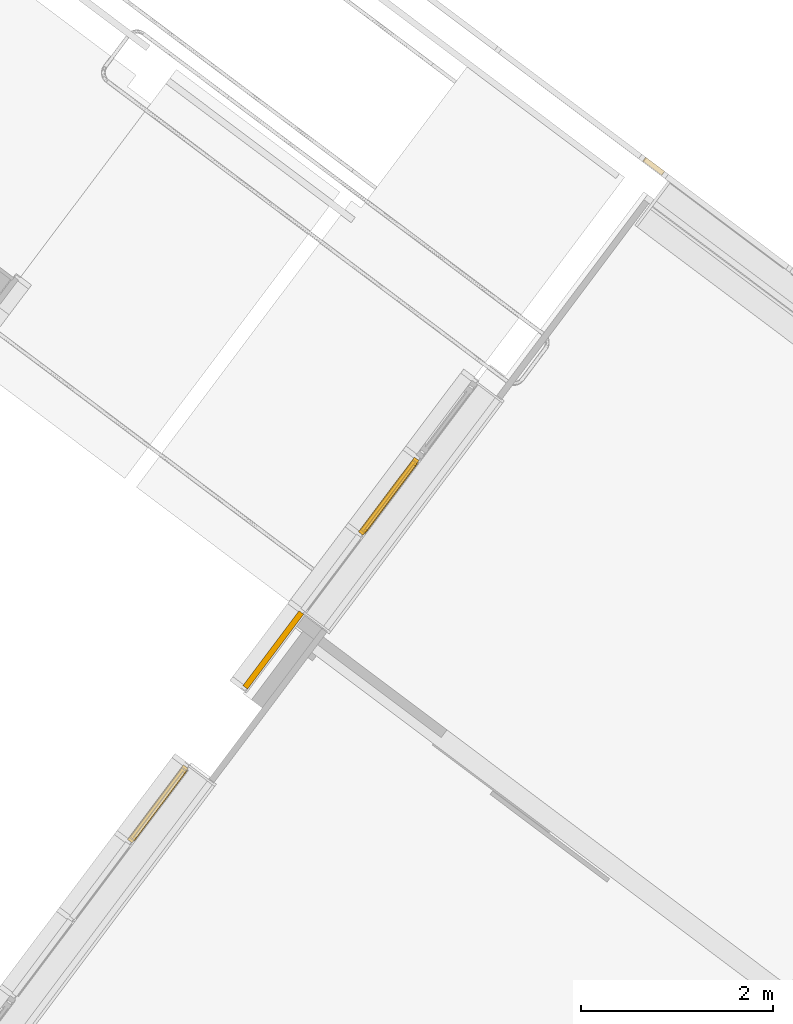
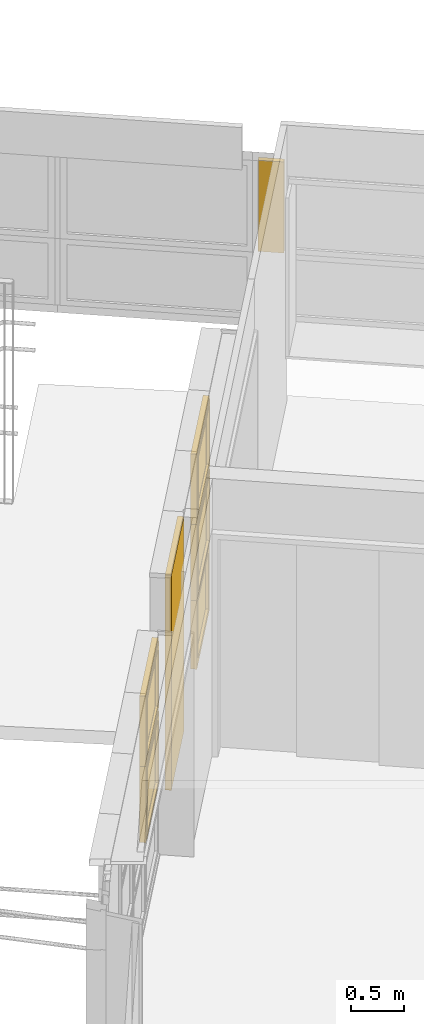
# One storey, part 171 of 243: 6 windows, 1 door, 2 elements without a shape of their own.
"""IFC2X3 building model written with IfcOpenShell, lengths in metres."""

from ifc_helpers import new_model, entity, si_unit, converted_unit, derived_unit, direction, frame, frame_2d, origin, origin_2d_with_axis, place, context, subcontext, project, spatial, polyline, rectangle, outline, extrude, faceted_brep, source, transform, mapped, material, material_list, type_object, type_shapes, element, aggregate, save


model = new_model("IFC2X3")

# Units and contexts
model_context = context("Model", 3, precision=1e-05, world=origin(), true_north=direction((6.123031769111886e-17, 1.0)))
body_context = subcontext(model_context, "Body", "Model", "MODEL_VIEW")
ifc_project = project(units=[si_unit("LENGTHUNIT", "METRE"), si_unit("AREAUNIT", "SQUARE_METRE"), si_unit("VOLUMEUNIT", "CUBIC_METRE"), converted_unit("PLANEANGLEUNIT", "DEGREE", entity("IfcRatioMeasure", 0.017453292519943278), si_unit("PLANEANGLEUNIT", "RADIAN"), dimensions=[0, 0, 0, 0, 0, 0, 0]), si_unit("MASSUNIT", "GRAM", prefix="KILO"), derived_unit("MASSDENSITYUNIT", [(si_unit("MASSUNIT", "GRAM", prefix="KILO"), 1), (si_unit("LENGTHUNIT", "METRE"), -3)]), derived_unit("IONCONCENTRATIONUNIT", [(si_unit("MASSUNIT", "GRAM", prefix="KILO"), 1), (si_unit("LENGTHUNIT", "METRE"), -3)]), derived_unit("MOMENTOFINERTIAUNIT", [(si_unit("LENGTHUNIT", "METRE"), 4)]), si_unit("TIMEUNIT", "SECOND"), si_unit("FREQUENCYUNIT", "HERTZ"), si_unit("THERMODYNAMICTEMPERATUREUNIT", "DEGREE_CELSIUS"), derived_unit("THERMALTRANSMITTANCEUNIT", [(si_unit("MASSUNIT", "GRAM", prefix="KILO"), 1), (si_unit("THERMODYNAMICTEMPERATUREUNIT", "KELVIN"), -1), (si_unit("TIMEUNIT", "SECOND"), -3)]), derived_unit("THERMALCONDUCTANCEUNIT", [(si_unit("MASSUNIT", "GRAM", prefix="KILO"), 1), (si_unit("THERMODYNAMICTEMPERATUREUNIT", "KELVIN"), -1), (si_unit("TIMEUNIT", "SECOND"), -3), (si_unit("LENGTHUNIT", "METRE"), 1)]), derived_unit("VOLUMETRICFLOWRATEUNIT", [(si_unit("LENGTHUNIT", "METRE"), 3), (si_unit("TIMEUNIT", "SECOND"), -1)]), derived_unit("MASSFLOWRATEUNIT", [(si_unit("MASSUNIT", "GRAM", prefix="KILO"), 1), (si_unit("TIMEUNIT", "SECOND"), -1)]), derived_unit("ROTATIONALFREQUENCYUNIT", [(si_unit("TIMEUNIT", "SECOND"), -1)]), si_unit("ELECTRICCURRENTUNIT", "AMPERE"), si_unit("ELECTRICVOLTAGEUNIT", "VOLT"), si_unit("POWERUNIT", "WATT"), si_unit("FORCEUNIT", "NEWTON", prefix="KILO"), si_unit("ILLUMINANCEUNIT", "LUX"), si_unit("LUMINOUSFLUXUNIT", "LUMEN"), si_unit("LUMINOUSINTENSITYUNIT", "CANDELA"), derived_unit("USERDEFINED", [(si_unit("MASSUNIT", "GRAM", prefix="KILO"), -1), (si_unit("LENGTHUNIT", "METRE"), -2), (si_unit("TIMEUNIT", "SECOND"), 3), (si_unit("LUMINOUSFLUXUNIT", "LUMEN"), 1)]), derived_unit("USERDEFINED", [(si_unit("MASSUNIT", "GRAM", prefix="KILO"), 1), (si_unit("TIMEUNIT", "SECOND"), -3), (si_unit("LENGTHUNIT", "METRE"), 3), (si_unit("ELECTRICCURRENTUNIT", "AMPERE"), -2)]), derived_unit("SOUNDPOWERUNIT", [(si_unit("MASSUNIT", "GRAM", prefix="KILO"), 1), (si_unit("TIMEUNIT", "SECOND"), -3), (si_unit("LENGTHUNIT", "METRE"), 2)]), derived_unit("SOUNDPRESSUREUNIT", [(si_unit("MASSUNIT", "GRAM", prefix="KILO"), 1), (si_unit("LENGTHUNIT", "METRE"), -1), (si_unit("TIMEUNIT", "SECOND"), -2)]), derived_unit("LINEARVELOCITYUNIT", [(si_unit("LENGTHUNIT", "METRE"), 1), (si_unit("TIMEUNIT", "SECOND"), -1)]), si_unit("PRESSUREUNIT", "PASCAL"), derived_unit("USERDEFINED", [(si_unit("MASSUNIT", "GRAM", prefix="KILO"), 1), (si_unit("LENGTHUNIT", "METRE"), -2), (si_unit("TIMEUNIT", "SECOND"), -2)]), derived_unit("LINEARFORCEUNIT", [(si_unit("MASSUNIT", "GRAM", prefix="KILO"), 1), (si_unit("TIMEUNIT", "SECOND"), -2)]), derived_unit("PLANARFORCEUNIT", [(si_unit("MASSUNIT", "GRAM", prefix="KILO"), 1), (si_unit("LENGTHUNIT", "METRE"), -1), (si_unit("TIMEUNIT", "SECOND"), -2)]), derived_unit("SPECIFICHEATCAPACITYUNIT", [(si_unit("THERMODYNAMICTEMPERATUREUNIT", "KELVIN"), -1), (si_unit("LENGTHUNIT", "METRE"), 2), (si_unit("TIMEUNIT", "SECOND"), -2)]), derived_unit("HEATINGVALUEUNIT", [(si_unit("LENGTHUNIT", "METRE"), 2), (si_unit("TIMEUNIT", "SECOND"), -2)]), derived_unit("VAPORPERMEABILITYUNIT", [(si_unit("LENGTHUNIT", "METRE"), -1), (si_unit("TIMEUNIT", "SECOND"), 1)]), derived_unit("DYNAMICVISCOSITYUNIT", [(si_unit("MASSUNIT", "GRAM", prefix="KILO"), 1), (si_unit("TIMEUNIT", "SECOND"), -1), (si_unit("LENGTHUNIT", "METRE"), -1)]), derived_unit("THERMALEXPANSIONCOEFFICIENTUNIT", [(si_unit("THERMODYNAMICTEMPERATUREUNIT", "KELVIN"), -1)]), derived_unit("MODULUSOFELASTICITYUNIT", [(si_unit("MASSUNIT", "GRAM", prefix="KILO"), 1), (si_unit("LENGTHUNIT", "METRE"), -1), (si_unit("TIMEUNIT", "SECOND"), -2)]), derived_unit("ISOTHERMALMOISTURECAPACITYUNIT", [(si_unit("LENGTHUNIT", "METRE"), 3), (si_unit("MASSUNIT", "GRAM", prefix="KILO"), -1)]), derived_unit("MOISTUREDIFFUSIVITYUNIT", [(si_unit("TIMEUNIT", "SECOND"), -1), (si_unit("LENGTHUNIT", "METRE"), 2)])], contexts=[model_context])

# Site, building, storey
site_placement = place(None, frame((0.0, 0.0, 235.0), z_axis=(0.0, 0.0, 1.0), x_axis=(-0.7996477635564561, 0.6004693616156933, 0.0)))
site = spatial("IfcSite", under=ifc_project, at=site_placement, Name="Default", CompositionType="ELEMENT")
building_placement = place(site_placement, origin())
building = spatial("IfcBuilding", under=site, at=building_placement, CompositionType="ELEMENT")
storey_placement = place(building_placement, origin())
storey = spatial("IfcBuildingStorey", under=building, at=storey_placement, Name="P0- Escola", CompositionType="ELEMENT", Elevation=0.0)

# Curtain wall, windows, door
curtain_wall_type_1 = type_object("IfcCurtainWallType", Name="Muro cortina:MC- EXT- MC2", PredefinedType="NOTDEFINED")
curtain_wall_1_placement = place(storey_placement, origin())
curtain_wall_1 = element("IfcCurtainWall", 1, at=curtain_wall_1_placement, inside=storey, type_object=curtain_wall_type_1, Name="Muro cortina:MC- EXT- MC2", ObjectType="Muro cortina:MC- EXT- MC2")
ifc_material_1 = material(Name="_Vidre")
ifc_material_2 = material(Name="_Alumini- T1- Perfil")
ifc_material_list_1 = material_list([ifc_material_1, ifc_material_2])
window_style_1 = type_object("IfcWindowStyle", Name="MC- Alu- Conjunt vidre fix- 62x60 cm:MC- Alu- Conjunt vidre fix- 62x60 cm", ConstructionType="NOTDEFINED", OperationType="NOTDEFINED", ParameterTakesPrecedence=False, Sizeable=False, material=ifc_material_list_1)
shared_shape_1 = source(origin(), body_context, "Body", "Brep", [
    faceted_brep([(-0.43619328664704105, -0.007600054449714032, 0.048806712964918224), (0.43619328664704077, -0.007600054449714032, 0.048806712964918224), (0.43619328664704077, -0.03160022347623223, 0.048806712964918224), (-0.43619328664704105, -0.03160022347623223, 0.048806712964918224), (-0.43619328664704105, -0.007600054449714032, 0.7387000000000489), (0.43619328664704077, -0.007600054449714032, 0.7387000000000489), (0.43619328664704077, -0.03160022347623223, 0.7387000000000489), (-0.43619328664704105, -0.03160022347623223, 0.7387000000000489)], [[[0, 1, 2, 3]], [[4, 5, 1, 0]], [[5, 6, 2, 1]], [[6, 7, 3, 2]], [[7, 4, 0, 3]], [[4, 7, 6, 5]]]),
    faceted_brep([(-0.4849999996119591, -0.05999999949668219, 0.7877000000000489), (-0.4849999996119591, 0.0, 0.7877000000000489), (-0.4849999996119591, 0.0, 0.0), (-0.4849999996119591, -0.05999999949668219, 0.0), (-0.422193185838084, 0.0, 0.7248931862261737), (-0.4221931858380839, 0.0, 0.06280681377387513), (0.42219318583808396, 0.0, 0.06280681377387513), (0.42219318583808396, 0.0, 0.7248931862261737), (0.4849999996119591, 0.0, 0.7877000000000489), (0.4849999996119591, 0.0, 0.0), (0.4849999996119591, -0.05999999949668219, 0.0), (0.4849999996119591, -0.05999999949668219, 0.7877000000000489), (0.4221960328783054, -0.05999999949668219, 0.7248960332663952), (0.4221960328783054, -0.05999999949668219, 0.0628039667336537), (-0.4221960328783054, -0.05999999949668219, 0.0628039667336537), (-0.4221960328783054, -0.05999999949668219, 0.7248960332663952), (-0.4221960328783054, -0.03160022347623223, 0.7248960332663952), (-0.4221960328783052, -0.03160022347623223, 0.06280396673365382), (0.4221960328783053, -0.03160022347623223, 0.06280396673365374), (0.42219603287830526, -0.03160022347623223, 0.7248960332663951), (0.43619328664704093, -0.03160022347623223, 0.7388932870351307), (0.43619328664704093, -0.03160022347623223, 0.048806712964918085), (-0.43619328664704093, -0.03160022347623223, 0.04880671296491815), (-0.43619328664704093, -0.03160022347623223, 0.7388932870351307), (-0.43619328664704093, -0.007600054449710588, 0.7388932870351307), (-0.43619328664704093, -0.007600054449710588, 0.04880671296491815), (0.43619328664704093, -0.007600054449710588, 0.048806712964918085), (0.43619328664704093, -0.007600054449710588, 0.7388932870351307), (0.42219318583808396, -0.007600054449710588, 0.7248931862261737), (0.42219318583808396, -0.007600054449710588, 0.06280681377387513), (-0.42219318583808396, -0.007600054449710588, 0.06280681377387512), (-0.42219318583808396, -0.007600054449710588, 0.7248931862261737)], [[[0, 1, 2, 3]], [[4, 5, 6, 7], [8, 9, 2, 1]], [[3, 2, 9, 10]], [[0, 3, 10, 11], [12, 13, 14, 15]], [[16, 15, 14, 17]], [[17, 14, 13, 18]], [[16, 17, 18, 19], [20, 21, 22, 23]], [[24, 23, 22, 25]], [[25, 22, 21, 26]], [[24, 25, 26, 27], [28, 29, 30, 31]], [[4, 31, 30, 5]], [[5, 30, 29, 6]], [[10, 9, 8, 11]], [[18, 13, 12, 19]], [[26, 21, 20, 27]], [[6, 29, 28, 7]], [[11, 8, 1, 0]], [[19, 12, 15, 16]], [[27, 20, 23, 24]], [[7, 28, 31, 4]]], outer=[[True], [False, True], [True], [True, False], [True], [True], [False, True], [True], [True], [True, False], [True], [True], [True], [True], [True], [True], [True], [True], [True], [True]]),
])
type_shapes(window_style_1, [shared_shape_1])
window_1_placement = place(curtain_wall_1_placement, frame((23.945147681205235, -37.9151917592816, 0.03229999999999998), z_axis=(0.0, 0.0, 1.0), x_axis=(0.0, -1.0, 0.0)))
window_1 = element("IfcWindow", 2, at=window_1_placement, type_object=window_style_1, material=ifc_material_list_1, Name="MC- Alu- Conjunt vidre fix- 62x60 cm:MC- Alu- Conjunt vidre fix- 62x60 cm", ObjectType="MC- Alu- Conjunt vidre fix- 62x60 cm:MC- Alu- Conjunt vidre fix- 62x60 cm", OverallHeight=0.7877000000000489, OverallWidth=0.9699999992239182, context=body_context, shape_type="MappedRepresentation", body=[
    mapped(shared_shape_1, transform((0.0, 0.0, 0.0), scale=1.0)),
])
window_style_2 = type_object("IfcWindowStyle", Name="MC- Alu- Conjunt finestra basculant- 68x68 cm:MC- Alu- Conjunt finestra basculant- 68x68 cm", ConstructionType="NOTDEFINED", OperationType="NOTDEFINED", ParameterTakesPrecedence=False, Sizeable=False, material=ifc_material_list_1)
shared_shape_2 = source(origin(), body_context, "Body", "Brep", [
    faceted_brep([(-0.43291170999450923, -0.03559830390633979, 0.051999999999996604), (-0.43291170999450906, -0.011598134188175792, 0.051999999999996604), (0.43291170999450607, -0.011598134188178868, 0.051999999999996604), (0.43291170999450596, -0.03559830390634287, 0.051999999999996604), (-0.43291170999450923, -0.03559830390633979, 0.8228027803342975), (-0.4329117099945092, -0.011598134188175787, 0.8228027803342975), (0.43291170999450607, -0.011598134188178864, 0.8228027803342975), (0.43291170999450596, -0.03559830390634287, 0.8228027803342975)], [[[0, 1, 2, 3]], [[4, 5, 1, 0]], [[5, 6, 2, 1]], [[6, 7, 3, 2]], [[7, 4, 0, 3]], [[4, 7, 6, 5]]]),
    faceted_brep([(0.4172108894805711, -0.009998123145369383, 0.8071019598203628), (0.4172108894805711, -0.007998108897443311, 0.8071019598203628), (0.4172108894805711, -0.007998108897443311, 0.06789804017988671), (0.4172108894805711, -0.009998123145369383, 0.06789804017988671), (0.44610892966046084, -0.007998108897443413, 0.8360000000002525), (0.44610892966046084, -0.007998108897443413, 0.03899999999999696), (-0.44610892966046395, -0.007998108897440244, 0.03899999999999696), (-0.44610892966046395, -0.007998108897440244, 0.8360000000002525), (-0.4172108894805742, -0.007998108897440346, 0.8071019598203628), (-0.4172108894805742, -0.007998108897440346, 0.06789804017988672), (-0.4172108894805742, -0.009998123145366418, 0.06789804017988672), (-0.4172108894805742, -0.009998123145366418, 0.8071019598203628), (-0.4329117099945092, -0.00999812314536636, 0.8228027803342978), (-0.4329117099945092, -0.009998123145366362, 0.05219721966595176), (0.43291170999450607, -0.009998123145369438, 0.052197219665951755), (0.43291170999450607, -0.009998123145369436, 0.8228027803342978), (0.4329117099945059, -0.04079986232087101, 0.8228027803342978), (0.4329117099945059, -0.04079986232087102, 0.052197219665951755), (-0.4329117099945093, -0.04079986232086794, 0.05219721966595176), (-0.4329117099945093, -0.04079986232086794, 0.8228027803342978), (-0.41721088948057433, -0.040799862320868, 0.8071019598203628), (-0.41721088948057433, -0.040799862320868, 0.06789804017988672), (0.41721088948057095, -0.04079986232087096, 0.06789804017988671), (0.41721088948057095, -0.04079986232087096, 0.8071019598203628), (0.41721088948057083, -0.06800005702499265, 0.8071019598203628), (0.4172108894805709, -0.06800005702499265, 0.06789804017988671), (-0.4172108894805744, -0.0680000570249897, 0.06789804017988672), (-0.4172108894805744, -0.0680000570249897, 0.8071019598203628), (-0.4636128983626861, -0.06800005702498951, 0.8535039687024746), (-0.4636128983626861, -0.06800005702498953, 0.021496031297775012), (0.4636128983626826, -0.06800005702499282, 0.021496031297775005), (0.4636128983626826, -0.06800005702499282, 0.8535039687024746), (0.4636128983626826, -0.0645000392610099, 0.8535039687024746), (0.4636128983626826, -0.0645000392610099, 0.021496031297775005), (-0.4636128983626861, -0.06450003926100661, 0.021496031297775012), (-0.4636128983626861, -0.06450003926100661, 0.8535039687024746), (-0.44610892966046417, -0.06450003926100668, 0.8360000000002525), (-0.44610892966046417, -0.06450003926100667, 0.03899999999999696), (0.4461089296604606, -0.06450003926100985, 0.038999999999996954), (0.4461089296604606, -0.06450003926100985, 0.8360000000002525)], [[[0, 1, 2, 3]], [[4, 5, 6, 7], [8, 9, 2, 1]], [[3, 2, 9, 10]], [[0, 3, 10, 11], [12, 13, 14, 15]], [[16, 15, 14, 17]], [[17, 14, 13, 18]], [[16, 17, 18, 19], [20, 21, 22, 23]], [[24, 23, 22, 25]], [[25, 22, 21, 26]], [[24, 25, 26, 27], [28, 29, 30, 31]], [[32, 31, 30, 33]], [[33, 30, 29, 34]], [[32, 33, 34, 35], [36, 37, 38, 39]], [[4, 39, 38, 5]], [[5, 38, 37, 6]], [[10, 9, 8, 11]], [[18, 13, 12, 19]], [[26, 21, 20, 27]], [[34, 29, 28, 35]], [[6, 37, 36, 7]], [[11, 8, 1, 0]], [[19, 12, 15, 16]], [[27, 20, 23, 24]], [[35, 28, 31, 32]], [[7, 36, 39, 4]]], outer=[[True], [True, False], [True], [False, True], [True], [True], [True, False], [True], [True], [False, True], [True], [True], [True, False], [True], [True], [True], [True], [True], [True], [True], [True], [True], [True], [True], [True]]),
    faceted_brep([(-0.42219318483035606, 0.0, 0.8121931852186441), (-0.42219318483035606, -0.0040000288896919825, 0.8121931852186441), (-0.422193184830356, -0.0040000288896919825, 0.06280681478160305), (-0.42219318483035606, 0.0, 0.06280681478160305), (-0.4575998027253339, -0.0040000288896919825, 0.847599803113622), (-0.4575998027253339, -0.0040000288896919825, 0.027400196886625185), (0.4575998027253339, -0.0040000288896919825, 0.027400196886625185), (0.4575998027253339, -0.0040000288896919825, 0.847599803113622), (0.422193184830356, -0.0040000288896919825, 0.812193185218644), (0.42219318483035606, -0.0040000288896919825, 0.06280681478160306), (0.42219318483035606, 0.0, 0.06280681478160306), (0.42219318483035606, 0.0, 0.8121931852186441), (0.4849999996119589, 0.0, 0.8750000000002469), (0.48499999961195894, 0.0, 0.0), (-0.4849999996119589, 0.0, 0.0), (-0.48499999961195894, 0.0, 0.8750000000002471), (-0.48499999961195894, -0.05999999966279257, 0.8750000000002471), (-0.48499999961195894, -0.05999999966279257, 0.0), (0.48499999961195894, -0.05999999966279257, 0.0), (0.48499999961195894, -0.05999999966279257, 0.8750000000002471), (0.45759980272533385, -0.05999999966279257, 0.8475998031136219), (0.4575998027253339, -0.05999999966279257, 0.027400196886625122), (-0.45759980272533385, -0.05999999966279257, 0.027400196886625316), (-0.4575998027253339, -0.05999999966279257, 0.847599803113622)], [[[0, 1, 2, 3]], [[4, 5, 6, 7], [8, 9, 2, 1]], [[3, 2, 9, 10]], [[0, 3, 10, 11], [12, 13, 14, 15]], [[16, 15, 14, 17]], [[17, 14, 13, 18]], [[16, 17, 18, 19], [20, 21, 22, 23]], [[4, 23, 22, 5]], [[5, 22, 21, 6]], [[10, 9, 8, 11]], [[18, 13, 12, 19]], [[6, 21, 20, 7]], [[11, 8, 1, 0]], [[19, 12, 15, 16]], [[7, 20, 23, 4]]], outer=[[True], [True, False], [True], [False, True], [True], [True], [True, False], [True], [True], [True], [True], [True], [True], [True], [True]]),
])
type_shapes(window_style_2, [shared_shape_2])
window_2_placement = place(curtain_wall_1_placement, frame((23.945147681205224, -33.91519175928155, 0.8200000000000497), z_axis=(0.0, 0.0, 1.0), x_axis=(0.0, -1.0, 0.0)))
window_2 = element("IfcWindow", 3, at=window_2_placement, type_object=window_style_2, material=ifc_material_list_1, Name="MC- Alu- Conjunt finestra basculant- 68x68 cm:MC- Alu- Conjunt finestra basculant- 68x68 cm", ObjectType="MC- Alu- Conjunt finestra basculant- 68x68 cm:MC- Alu- Conjunt finestra basculant- 68x68 cm", OverallHeight=0.8750000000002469, OverallWidth=0.9699999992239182, context=body_context, shape_type="MappedRepresentation", body=[
    mapped(shared_shape_2, transform((0.0, 0.0, 0.0), scale=1.0)),
])
window_3_placement = place(curtain_wall_1_placement, frame((23.945147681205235, -37.9151917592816, 0.8200000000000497), z_axis=(0.0, 0.0, 1.0), x_axis=(0.0, -1.0, 0.0)))
window_3 = element("IfcWindow", 4, at=window_3_placement, type_object=window_style_2, material=ifc_material_list_1, Name="MC- Alu- Conjunt finestra basculant- 68x68 cm:MC- Alu- Conjunt finestra basculant- 68x68 cm", ObjectType="MC- Alu- Conjunt finestra basculant- 68x68 cm:MC- Alu- Conjunt finestra basculant- 68x68 cm", OverallHeight=0.8750000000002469, OverallWidth=0.9699999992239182, context=body_context, shape_type="MappedRepresentation", body=[
    mapped(shared_shape_2, transform((0.0, 0.0, 0.0), scale=1.0)),
])
window_style_3 = type_object("IfcWindowStyle", Name="MC- Alu- Conjunt finestra basculant- 68x68 cm:MC- Alu- Conjunt finestra basculant- 68x68 cm", ConstructionType="NOTDEFINED", OperationType="NOTDEFINED", ParameterTakesPrecedence=False, Sizeable=False, material=ifc_material_list_1)
shared_shape_3 = source(origin(), body_context, "Body", "Brep", [
    faceted_brep([(-0.43291170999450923, -0.03559830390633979, 0.051999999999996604), (-0.43291170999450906, -0.011598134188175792, 0.051999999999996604), (0.43291170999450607, -0.011598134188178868, 0.051999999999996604), (0.43291170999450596, -0.03559830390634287, 0.051999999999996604), (-0.43291170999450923, -0.03559830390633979, 0.7565527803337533), (-0.4329117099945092, -0.011598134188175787, 0.7565527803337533), (0.43291170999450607, -0.011598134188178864, 0.7565527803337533), (0.43291170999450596, -0.03559830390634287, 0.7565527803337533)], [[[0, 1, 2, 3]], [[4, 5, 1, 0]], [[5, 6, 2, 1]], [[6, 7, 3, 2]], [[7, 4, 0, 3]], [[4, 7, 6, 5]]]),
    faceted_brep([(0.4172108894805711, -0.009998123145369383, 0.7408519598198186), (0.4172108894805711, -0.007998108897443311, 0.7408519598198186), (0.4172108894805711, -0.007998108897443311, 0.06789804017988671), (0.4172108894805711, -0.009998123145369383, 0.06789804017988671), (0.44610892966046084, -0.007998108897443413, 0.7697499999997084), (0.44610892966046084, -0.007998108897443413, 0.03899999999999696), (-0.44610892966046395, -0.007998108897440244, 0.03899999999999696), (-0.44610892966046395, -0.007998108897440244, 0.7697499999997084), (-0.4172108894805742, -0.007998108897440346, 0.7408519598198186), (-0.4172108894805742, -0.007998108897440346, 0.06789804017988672), (-0.4172108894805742, -0.009998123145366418, 0.06789804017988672), (-0.4172108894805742, -0.009998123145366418, 0.7408519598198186), (-0.4329117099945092, -0.00999812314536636, 0.7565527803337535), (-0.4329117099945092, -0.009998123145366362, 0.05219721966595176), (0.43291170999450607, -0.009998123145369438, 0.052197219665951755), (0.43291170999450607, -0.009998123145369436, 0.7565527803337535), (0.4329117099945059, -0.04079986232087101, 0.7565527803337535), (0.4329117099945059, -0.04079986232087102, 0.052197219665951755), (-0.4329117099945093, -0.04079986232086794, 0.05219721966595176), (-0.4329117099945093, -0.04079986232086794, 0.7565527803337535), (-0.41721088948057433, -0.040799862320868, 0.7408519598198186), (-0.41721088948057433, -0.040799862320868, 0.06789804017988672), (0.41721088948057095, -0.04079986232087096, 0.06789804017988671), (0.41721088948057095, -0.04079986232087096, 0.7408519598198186), (0.41721088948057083, -0.06800005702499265, 0.7408519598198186), (0.4172108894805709, -0.06800005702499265, 0.06789804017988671), (-0.4172108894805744, -0.0680000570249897, 0.06789804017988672), (-0.4172108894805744, -0.0680000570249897, 0.7408519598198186), (-0.4636128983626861, -0.06800005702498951, 0.7872539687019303), (-0.4636128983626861, -0.06800005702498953, 0.021496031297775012), (0.4636128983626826, -0.06800005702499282, 0.021496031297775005), (0.4636128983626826, -0.06800005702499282, 0.7872539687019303), (0.4636128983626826, -0.0645000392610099, 0.7872539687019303), (0.4636128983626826, -0.0645000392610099, 0.021496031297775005), (-0.4636128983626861, -0.06450003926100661, 0.021496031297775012), (-0.4636128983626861, -0.06450003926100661, 0.7872539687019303), (-0.44610892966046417, -0.06450003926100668, 0.7697499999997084), (-0.44610892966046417, -0.06450003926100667, 0.03899999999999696), (0.4461089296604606, -0.06450003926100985, 0.038999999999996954), (0.4461089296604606, -0.06450003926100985, 0.7697499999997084)], [[[0, 1, 2, 3]], [[4, 5, 6, 7], [8, 9, 2, 1]], [[3, 2, 9, 10]], [[0, 3, 10, 11], [12, 13, 14, 15]], [[16, 15, 14, 17]], [[17, 14, 13, 18]], [[16, 17, 18, 19], [20, 21, 22, 23]], [[24, 23, 22, 25]], [[25, 22, 21, 26]], [[24, 25, 26, 27], [28, 29, 30, 31]], [[32, 31, 30, 33]], [[33, 30, 29, 34]], [[32, 33, 34, 35], [36, 37, 38, 39]], [[4, 39, 38, 5]], [[5, 38, 37, 6]], [[10, 9, 8, 11]], [[18, 13, 12, 19]], [[26, 21, 20, 27]], [[34, 29, 28, 35]], [[6, 37, 36, 7]], [[11, 8, 1, 0]], [[19, 12, 15, 16]], [[27, 20, 23, 24]], [[35, 28, 31, 32]], [[7, 36, 39, 4]]], outer=[[True], [True, False], [True], [False, True], [True], [True], [True, False], [True], [True], [False, True], [True], [True], [True, False], [True], [True], [True], [True], [True], [True], [True], [True], [True], [True], [True], [True]]),
    faceted_brep([(-0.42219318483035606, 0.0, 0.7459431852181), (-0.42219318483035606, -0.0040000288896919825, 0.7459431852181), (-0.422193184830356, -0.0040000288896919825, 0.06280681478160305), (-0.42219318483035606, 0.0, 0.06280681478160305), (-0.4575998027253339, -0.0040000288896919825, 0.7813498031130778), (-0.4575998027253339, -0.0040000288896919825, 0.027400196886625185), (0.4575998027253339, -0.0040000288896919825, 0.027400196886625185), (0.4575998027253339, -0.0040000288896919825, 0.7813498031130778), (0.422193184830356, -0.0040000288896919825, 0.7459431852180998), (0.42219318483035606, -0.0040000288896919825, 0.06280681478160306), (0.42219318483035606, 0.0, 0.06280681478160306), (0.42219318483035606, 0.0, 0.7459431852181), (0.48499999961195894, 0.0, 0.8087499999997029), (0.48499999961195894, 0.0, 0.0), (-0.48499999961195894, 0.0, 0.0), (-0.48499999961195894, 0.0, 0.8087499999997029), (-0.48499999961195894, -0.05999999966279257, 0.8087499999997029), (-0.48499999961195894, -0.05999999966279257, 0.0), (0.48499999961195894, -0.05999999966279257, 0.0), (0.48499999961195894, -0.05999999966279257, 0.8087499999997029), (0.4575998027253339, -0.05999999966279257, 0.7813498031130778), (0.4575998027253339, -0.05999999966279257, 0.027400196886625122), (-0.4575998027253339, -0.05999999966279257, 0.02740019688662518), (-0.4575998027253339, -0.05999999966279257, 0.7813498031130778)], [[[0, 1, 2, 3]], [[4, 5, 6, 7], [8, 9, 2, 1]], [[3, 2, 9, 10]], [[0, 3, 10, 11], [12, 13, 14, 15]], [[16, 15, 14, 17]], [[17, 14, 13, 18]], [[16, 17, 18, 19], [20, 21, 22, 23]], [[4, 23, 22, 5]], [[5, 22, 21, 6]], [[10, 9, 8, 11]], [[18, 13, 12, 19]], [[6, 21, 20, 7]], [[11, 8, 1, 0]], [[19, 12, 15, 16]], [[7, 20, 23, 4]]], outer=[[True], [True, False], [True], [False, True], [True], [True], [True, False], [True], [True], [True], [True], [True], [True], [True], [True]]),
])
type_shapes(window_style_3, [shared_shape_3])
window_4_placement = place(curtain_wall_1_placement, frame((23.945147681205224, -33.915191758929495, 1.6950000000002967), z_axis=(0.0, 0.0, 1.0), x_axis=(0.0, -1.0, 0.0)))
window_4 = element("IfcWindow", 5, at=window_4_placement, type_object=window_style_3, material=ifc_material_list_1, Name="MC- Alu- Conjunt finestra basculant- 68x68 cm:MC- Alu- Conjunt finestra basculant- 68x68 cm", ObjectType="MC- Alu- Conjunt finestra basculant- 68x68 cm:MC- Alu- Conjunt finestra basculant- 68x68 cm", OverallHeight=0.8087499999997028, OverallWidth=0.9699999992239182, context=body_context, shape_type="MappedRepresentation", body=[
    mapped(shared_shape_3, transform((0.0, 0.0, 0.0), scale=1.0)),
])
window_5_placement = place(curtain_wall_1_placement, frame((23.945147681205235, -37.91519175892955, 1.6950000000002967), z_axis=(0.0, 0.0, 1.0), x_axis=(0.0, -1.0, 0.0)))
window_5 = element("IfcWindow", 6, at=window_5_placement, type_object=window_style_3, material=ifc_material_list_1, Name="MC- Alu- Conjunt finestra basculant- 68x68 cm:MC- Alu- Conjunt finestra basculant- 68x68 cm", ObjectType="MC- Alu- Conjunt finestra basculant- 68x68 cm:MC- Alu- Conjunt finestra basculant- 68x68 cm", OverallHeight=0.8087499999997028, OverallWidth=0.9699999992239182, context=body_context, shape_type="MappedRepresentation", body=[
    mapped(shared_shape_3, transform((0.0, 0.0, 0.0), scale=1.0)),
])
ifc_material_3 = material(Name="_Aillament")
ifc_material_list_2 = material_list([ifc_material_2, ifc_material_3])
door_style = type_object("IfcDoorStyle", Name="MC- Alu- panell especific xapa:MC- Alu- panell especific xapa", ConstructionType="NOTDEFINED", OperationType="NOTDEFINED", ParameterTakesPrecedence=False, Sizeable=False, material=ifc_material_list_2)
shared_shape_4 = source(origin(), body_context, "Body", "SweptSolid", [
    extrude(rectangle(XDim=0.9727961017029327, YDim=0.005999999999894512, at=origin_2d_with_axis()), frame((0.0, -0.057000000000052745, 0.0), z_axis=(0.0, 0.0, 1.0), x_axis=(-1.0, 0.0, 0.0)), (0.0, 0.0, 1.0), 2.471449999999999),
    extrude(rectangle(XDim=0.048000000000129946, YDim=0.9727961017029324, at=origin_2d_with_axis()), frame((0.0, -0.030000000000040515, 0.0), z_axis=(0.0, 0.0, 1.0), x_axis=(0.0, 1.0, 0.0)), (0.0, 0.0, 1.0), 2.471449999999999),
    extrude(rectangle(XDim=0.972796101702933, YDim=0.005999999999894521, at=origin_2d_with_axis()), frame((0.0, -0.003000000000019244, 0.0), z_axis=(0.0, 0.0, 1.0), x_axis=(-1.0, 0.0, 0.0)), (0.0, 0.0, 1.0), 2.471449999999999),
])
type_shapes(door_style, [shared_shape_4])
door_placement = place(curtain_wall_1_placement, frame((23.945147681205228, -35.91658981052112, 0.03229999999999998), z_axis=(0.0, 0.0, 1.0), x_axis=(0.0, -1.0, 0.0)))
door = element("IfcDoor", 7, at=door_placement, type_object=door_style, material=ifc_material_list_2, Name="MC- Alu- panell especific xapa:MC- Alu- panell especific xapa", ObjectType="MC- Alu- panell especific xapa:MC- Alu- panell especific xapa", OverallHeight=2.471449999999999, OverallWidth=0.9727961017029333, context=body_context, shape_type="MappedRepresentation", body=[
    mapped(shared_shape_4, transform((0.0, 0.0, 0.0), scale=1.0)),
])
aggregate(curtain_wall_1, [door, window_1, window_2, window_3, window_4, window_5])

# Curtain wall, window
curtain_wall_type_2 = type_object("IfcCurtainWallType", Name="Muro cortina:MC- EXT- MC6", PredefinedType="NOTDEFINED")
curtain_wall_2_placement = place(storey_placement, origin())
curtain_wall_2 = element("IfcCurtainWall", 8, at=curtain_wall_2_placement, inside=storey, type_object=curtain_wall_type_2, Name="Muro cortina:MC- EXT- MC6", ObjectType="Muro cortina:MC- EXT- MC6")
ifc_material_4 = material(Name="<Unnamed>")
ifc_material_list_3 = material_list([ifc_material_4, ifc_material_1, ifc_material_2])
window_style_4 = type_object("IfcWindowStyle", Name="MC- Alu- Conjunt vidre fix revestiment:MC- Alu- Conjunt vidre fix revestiment", ConstructionType="NOTDEFINED", OperationType="NOTDEFINED", ParameterTakesPrecedence=False, Sizeable=False, material=ifc_material_list_3)
shared_shape_5 = source(origin(), body_context, "Body", "SweptSolid", [
    extrude(rectangle(XDim=0.23500000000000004, YDim=0.039999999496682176, at=origin_2d_with_axis()), frame((0.0, -0.02999999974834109, 0.0050000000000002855), z_axis=(0.0, 0.0, 1.0), x_axis=(-1.0, 0.0, 0.0)), (0.0, 0.0, 1.0), 1.0375000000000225),
    extrude(rectangle(XDim=0.24500000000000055, YDim=0.010000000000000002, at=frame_2d((-6.938893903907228e-18, 0.0), x_axis=(1.0, 0.0))), frame((0.0, -0.005000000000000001, 0.0), z_axis=(0.0, 0.0, 1.0), x_axis=(-1.0, 0.0, 0.0)), (0.0, 0.0, 1.0), 1.0475000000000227),
    extrude(outline(polyline([(-0.5237500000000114, -0.1225000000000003), (0.5237500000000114, -0.1225000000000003), (0.5237500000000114, 0.1225000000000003), (-0.5237500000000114, 0.1225000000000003), (-0.5237500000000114, -0.1225000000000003)]), holes=[polyline([(-0.5187500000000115, 0.11750000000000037), (0.5187500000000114, 0.1175000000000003), (0.5187500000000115, -0.11750000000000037), (-0.5187500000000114, -0.1175000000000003), (-0.5187500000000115, 0.11750000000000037)])]), frame((0.0, -0.010000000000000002, 0.5237500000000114), z_axis=(0.0, -1.0, 0.0), x_axis=(0.0, 0.0, -1.0)), (0.0, 0.0, 1.0), 0.03999999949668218),
])
type_shapes(window_style_4, [shared_shape_5])
window_6_placement = place(curtain_wall_2_placement, frame((23.772647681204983, -42.34019175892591, 1.455), z_axis=(0.0, 0.0, 1.0), x_axis=(-1.0, 0.0, 0.0)))
window_6 = element("IfcWindow", 9, at=window_6_placement, type_object=window_style_4, material=ifc_material_list_3, Name="MC- Alu- Conjunt vidre fix revestiment:MC- Alu- Conjunt vidre fix revestiment", ObjectType="MC- Alu- Conjunt vidre fix revestiment:MC- Alu- Conjunt vidre fix revestiment", OverallHeight=1.047500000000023, OverallWidth=0.24500000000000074, context=body_context, shape_type="MappedRepresentation", body=[
    mapped(shared_shape_5, transform((0.0, 0.0, 0.0), scale=1.0)),
])
aggregate(curtain_wall_2, [window_6])

save(model, "model.ifc")
